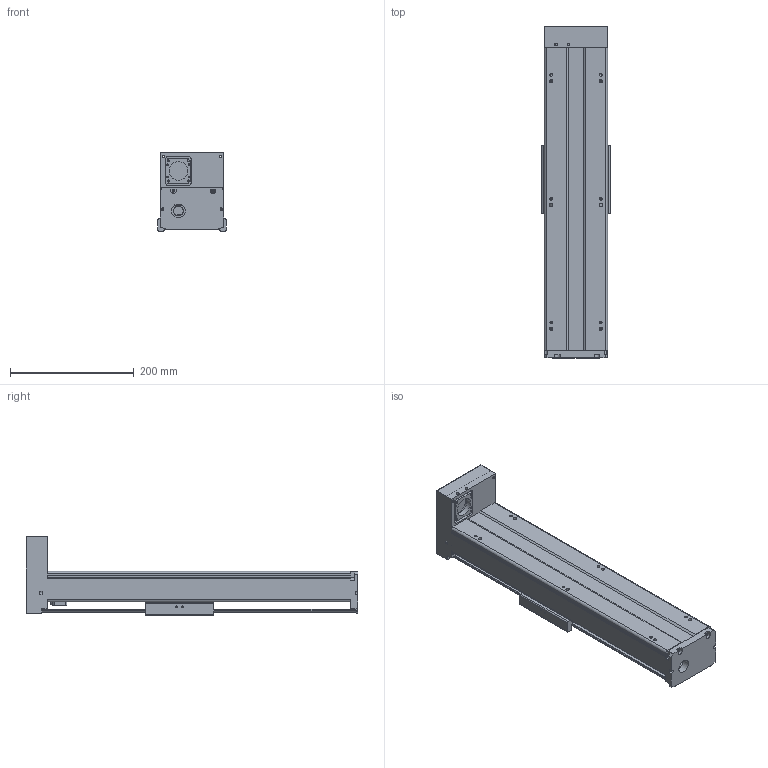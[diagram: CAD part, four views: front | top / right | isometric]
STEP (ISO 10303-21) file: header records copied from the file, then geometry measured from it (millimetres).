
FILE_DESCRIPTION(/* description */ (''),/* implementation_level */ '2;1');
FILE_NAME(/* name */ 'TKA100-FD-300_asm1.stp',/* time_stamp */ '2016-05-16T15:16:01+08:00',/* author */ (''),/* organization */ (''),/* preprocessor_version */ 'ST-DEVELOPER v15',/* originating_system */ 'SIEMENS PLM Software NX 8.5',/* authorisation */ '');
FILE_SCHEMA (('AUTOMOTIVE_DESIGN { 1 0 10303 214 3 1 1 1 }'));
Length unit declared in the file: millimetre
Products named in the file (3): 200-02; 200-01; TKA100-FD-300_asm1
Assembly tree (2 placements, depth 2):
  TKA100-FD-300_asm1
    200-01
    200-02
Bounding box: 110 x 536 x 127 mm (x, y, z)
Volume: 1330133 mm3; surface area: 463849.6 mm2
Topology: 2 solids, 8 shells, 759 faces, 1968 edges, 1274 vertices
Faces by surface type: cylinder 291, plane 289, cone 115, torus 38, bspline 26
Full cylindrical faces by diameter (mm): 2.5 x6, 2.6 x8, 3.3 x10, 3.4 x8, 3.8 x8, 4.2 x15, 4.3 x4, 4.5 x8, 5 x1, 5.5 x16, 6.6 x4, 8 x5, 9 x4, 10 x8, 11 x4, 12 x7, 15.3 x1, 16 x1, 22 x1, 24 x1, 28 x4, 30 x1, 33 x1
Entity records: 27624 total; most frequent: CARTESIAN_POINT 9921, DIRECTION 3688, ORIENTED_EDGE 3398, EDGE_CURVE 1699, AXIS2_PLACEMENT_3D 1463, VERTEX_POINT 1201, EDGE_LOOP 1066, LINE 762
